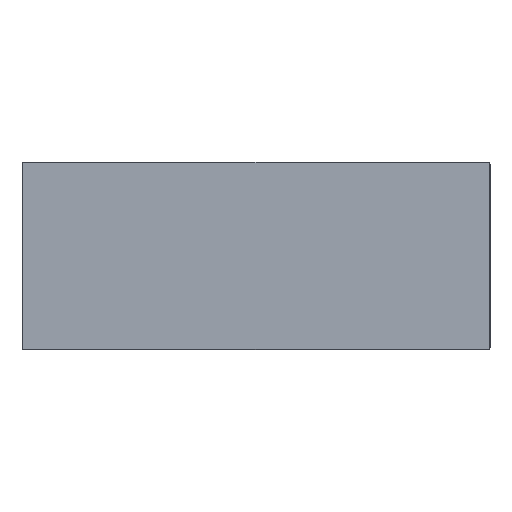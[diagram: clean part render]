
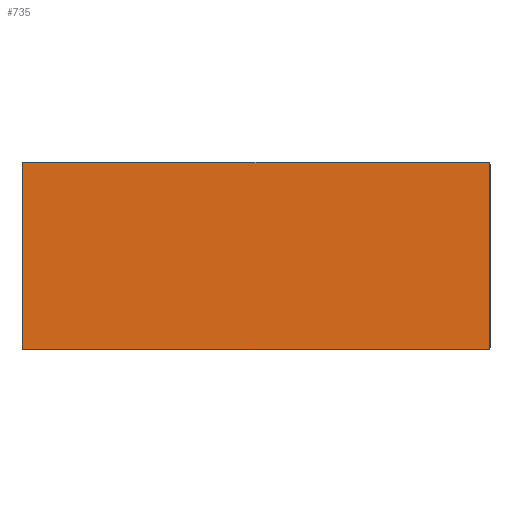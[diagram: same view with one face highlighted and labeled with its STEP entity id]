
A CAD part, top view. The second image highlights one B-rep face of the part: STEP entity #735.
In plain terms, the highlighted planar face has unit normal (0, 0, 1).
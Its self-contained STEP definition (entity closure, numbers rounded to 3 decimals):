
#450=CARTESIAN_POINT('',(-1249.0,-490.,730.8));
#451=VERTEX_POINT('',#450);
#458=CARTESIAN_POINT('',(-1249.,490.,730.8));
#459=VERTEX_POINT('',#458);
#460=CARTESIAN_POINT('',(-1249.0,-490.,730.8));
#461=DIRECTION('',(0.0,1.0,0.0));
#462=VECTOR('',#461,980.);
#463=LINE('',#460,#462);
#464=EDGE_CURVE('',#451,#459,#463,.T.);
#481=CARTESIAN_POINT('',(-1240.0,499.,730.8));
#482=VERTEX_POINT('',#481);
#491=CARTESIAN_POINT('',(-1240.0,490.,730.8));
#492=DIRECTION('',(0.,0.,-1.));
#493=DIRECTION('',(-0.707,0.707,0.));
#494=AXIS2_PLACEMENT_3D('',#491,#492,#493);
#495=CIRCLE('',#494,9.);
#496=EDGE_CURVE('',#459,#482,#495,.T.);
#506=CARTESIAN_POINT('',(1240.0,499.,730.8));
#507=VERTEX_POINT('',#506);
#516=CARTESIAN_POINT('',(-1240.0,499.,730.8));
#517=DIRECTION('',(1.0,0.0,0.0));
#518=VECTOR('',#517,2480.0);
#519=LINE('',#516,#518);
#520=EDGE_CURVE('',#482,#507,#519,.T.);
#530=CARTESIAN_POINT('',(1249.0,490.,730.8));
#531=VERTEX_POINT('',#530);
#540=CARTESIAN_POINT('',(1240.0,490.,730.8));
#541=DIRECTION('',(0.,0.,-1.));
#542=DIRECTION('',(0.707,0.707,0.));
#543=AXIS2_PLACEMENT_3D('',#540,#541,#542);
#544=CIRCLE('',#543,9.);
#545=EDGE_CURVE('',#507,#531,#544,.T.);
#555=CARTESIAN_POINT('',(1249.0,-490.,730.8));
#556=VERTEX_POINT('',#555);
#572=CARTESIAN_POINT('',(1249.0,490.,730.8));
#573=DIRECTION('',(0.0,-1.0,0.0));
#574=VECTOR('',#573,980.);
#575=LINE('',#572,#574);
#576=EDGE_CURVE('',#531,#556,#575,.T.);
#586=CARTESIAN_POINT('',(1240.0,-499.,730.8));
#587=VERTEX_POINT('',#586);
#604=CARTESIAN_POINT('',(1240.0,-490.,730.8));
#605=DIRECTION('',(0.,0.,-1.));
#606=DIRECTION('',(0.707,-0.707,0.));
#607=AXIS2_PLACEMENT_3D('',#604,#605,#606);
#608=CIRCLE('',#607,9.);
#609=EDGE_CURVE('',#556,#587,#608,.T.);
#619=CARTESIAN_POINT('',(-1240.0,-499.,730.8));
#620=VERTEX_POINT('',#619);
#636=CARTESIAN_POINT('',(1240.0,-499.,730.8));
#637=DIRECTION('',(-1.0,0.0,0.0));
#638=VECTOR('',#637,2480.0);
#639=LINE('',#636,#638);
#640=EDGE_CURVE('',#587,#620,#639,.T.);
#659=CARTESIAN_POINT('',(-1240.0,-490.,730.8));
#660=DIRECTION('',(0.,0.,-1.));
#661=DIRECTION('',(-0.707,-0.707,0.));
#662=AXIS2_PLACEMENT_3D('',#659,#660,#661);
#663=CIRCLE('',#662,9.);
#664=EDGE_CURVE('',#620,#451,#663,.T.);
#720=CARTESIAN_POINT('',(0.,0.,730.8));
#721=DIRECTION('',(0.0,0.0,1.0));
#722=DIRECTION('',(0.0,-1.0,0.0));
#723=AXIS2_PLACEMENT_3D('',#720,#721,#722);
#724=PLANE('',#723);
#725=ORIENTED_EDGE('',*,*,#464,.F.);
#726=ORIENTED_EDGE('',*,*,#664,.F.);
#727=ORIENTED_EDGE('',*,*,#640,.F.);
#728=ORIENTED_EDGE('',*,*,#609,.F.);
#729=ORIENTED_EDGE('',*,*,#576,.F.);
#730=ORIENTED_EDGE('',*,*,#545,.F.);
#731=ORIENTED_EDGE('',*,*,#520,.F.);
#732=ORIENTED_EDGE('',*,*,#496,.F.);
#733=EDGE_LOOP('',(#725,#726,#727,#728,#729,#730,#731,#732));
#734=FACE_OUTER_BOUND('',#733,.T.);
#735=ADVANCED_FACE('',(#734),#724,.T.);
